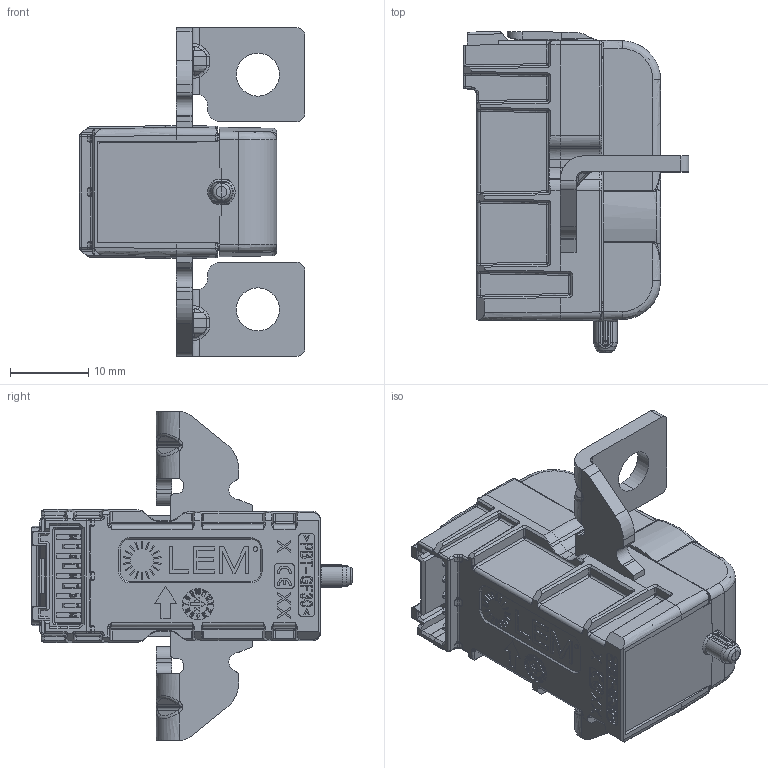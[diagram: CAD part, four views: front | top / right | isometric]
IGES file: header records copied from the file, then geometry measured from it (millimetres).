
Start section: Elysium IGES Interface
Global section: file name: \\GVA50\SD-Data\3D_and_BlackBox_OSM\AUTOMOTIVE\HAM - OMEGA\HAM-250_S04_BBox_MLm_170509.igs; native system: PTC Creo Elements/Direct Modeling 19.0B  21-Mar-2015; preprocessor: Creo Element/Direct IGES_3D V2.2; author: Unknown; organization: Unknown; date: 20171206.114655; units: millimetre
Bounding box: 28.82 x 40.98 x 42 mm (x, y, z)
Volume: 13207.6 mm3; surface area: 6273.9 mm2
Topology: 1 solids, 2 shells, 1811 faces, 4790 edges, 3035 vertices
Faces by surface type: bspline 1811
